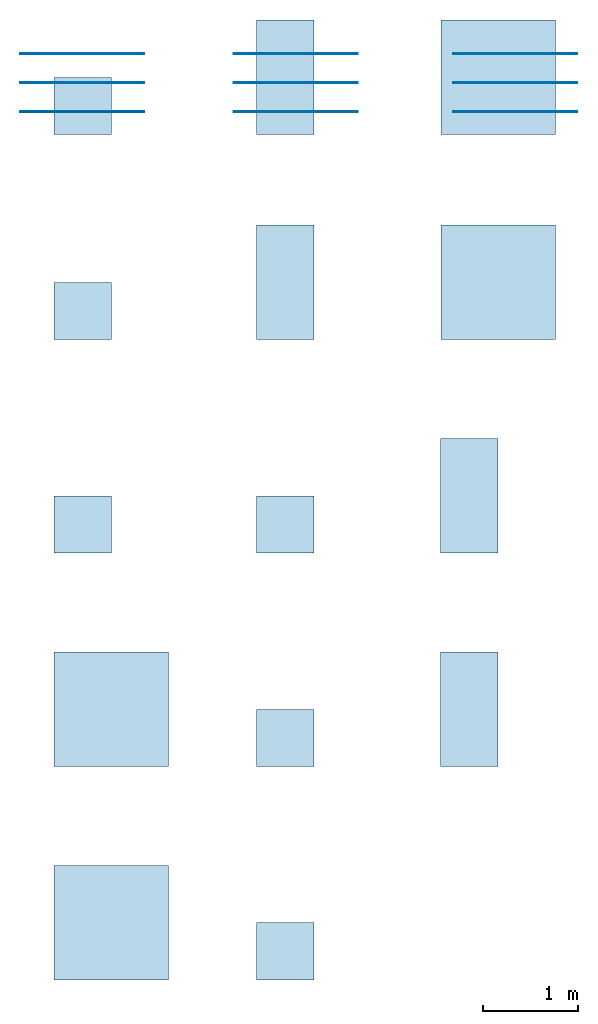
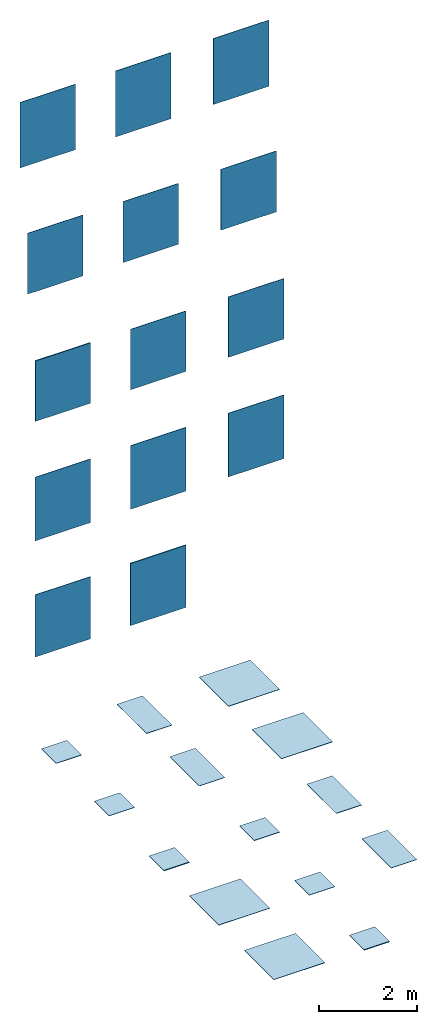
# One storey: 14 slabs, 14 walls.
"""IFC2X3 building model written with IfcOpenShell, lengths in millimetres."""

from ifc_helpers import new_model, entity, si_unit, converted_unit, derived_unit, direction, frame, frame_2d, origin, origin_2d_with_axis, place, context, subcontext, project, spatial, rectangle, extrude, material, layer, layer_set, layer_usage, type_object, element, save


model = new_model("IFC2X3")

# Units and contexts
model_context = context("Model", 3, precision=0.01, world=origin(), true_north=direction((6.123031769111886e-17, 1.0)))
body_context = subcontext(model_context, "Body", "Model", "MODEL_VIEW")
ifc_project = project(units=[si_unit("LENGTHUNIT", "METRE", prefix="MILLI"), si_unit("AREAUNIT", "SQUARE_METRE"), si_unit("VOLUMEUNIT", "CUBIC_METRE"), converted_unit("PLANEANGLEUNIT", "DEGREE", entity("IfcRatioMeasure", 0.017453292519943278), si_unit("PLANEANGLEUNIT", "RADIAN"), dimensions=[0, 0, 0, 0, 0, 0, 0]), si_unit("MASSUNIT", "GRAM", prefix="KILO"), derived_unit("MASSDENSITYUNIT", [(si_unit("MASSUNIT", "GRAM", prefix="KILO"), 1), (si_unit("LENGTHUNIT", "METRE"), -3)]), derived_unit("MOMENTOFINERTIAUNIT", [(si_unit("LENGTHUNIT", "METRE"), 4)]), si_unit("TIMEUNIT", "SECOND"), si_unit("FREQUENCYUNIT", "HERTZ"), si_unit("THERMODYNAMICTEMPERATUREUNIT", "DEGREE_CELSIUS"), derived_unit("THERMALTRANSMITTANCEUNIT", [(si_unit("MASSUNIT", "GRAM", prefix="KILO"), 1), (si_unit("THERMODYNAMICTEMPERATUREUNIT", "KELVIN"), -1), (si_unit("TIMEUNIT", "SECOND"), -3)]), derived_unit("VOLUMETRICFLOWRATEUNIT", [(si_unit("LENGTHUNIT", "METRE"), 3), (si_unit("TIMEUNIT", "SECOND"), -1)]), derived_unit("MASSFLOWRATEUNIT", [(si_unit("MASSUNIT", "GRAM", prefix="KILO"), 1), (si_unit("TIMEUNIT", "SECOND"), -1)]), derived_unit("ROTATIONALFREQUENCYUNIT", [(si_unit("TIMEUNIT", "SECOND"), -1)]), si_unit("ELECTRICCURRENTUNIT", "AMPERE"), si_unit("ELECTRICVOLTAGEUNIT", "VOLT"), si_unit("POWERUNIT", "WATT"), si_unit("FORCEUNIT", "NEWTON", prefix="KILO"), si_unit("ILLUMINANCEUNIT", "LUX"), si_unit("LUMINOUSFLUXUNIT", "LUMEN"), si_unit("LUMINOUSINTENSITYUNIT", "CANDELA"), derived_unit("USERDEFINED", [(si_unit("MASSUNIT", "GRAM", prefix="KILO"), -1), (si_unit("LENGTHUNIT", "METRE"), -2), (si_unit("TIMEUNIT", "SECOND"), 3), (si_unit("LUMINOUSFLUXUNIT", "LUMEN"), 1)]), derived_unit("SOUNDPOWERUNIT", [(si_unit("MASSUNIT", "GRAM", prefix="KILO"), 1), (si_unit("LENGTHUNIT", "METRE"), 2), (si_unit("TIMEUNIT", "SECOND"), -3)]), derived_unit("SOUNDPRESSUREUNIT", [(si_unit("MASSUNIT", "GRAM", prefix="KILO"), 1), (si_unit("LENGTHUNIT", "METRE"), -1), (si_unit("TIMEUNIT", "SECOND"), -2)]), derived_unit("LINEARVELOCITYUNIT", [(si_unit("LENGTHUNIT", "METRE"), 1), (si_unit("TIMEUNIT", "SECOND"), -1)]), si_unit("PRESSUREUNIT", "PASCAL"), derived_unit("USERDEFINED", [(si_unit("LENGTHUNIT", "METRE"), -2), (si_unit("MASSUNIT", "GRAM", prefix="KILO"), 1), (si_unit("TIMEUNIT", "SECOND"), -2)]), derived_unit("LINEARFORCEUNIT", [(si_unit("MASSUNIT", "GRAM", prefix="KILO"), 1), (si_unit("LENGTHUNIT", "METRE"), 1), (si_unit("TIMEUNIT", "SECOND"), -2), (si_unit("LENGTHUNIT", "METRE"), -1)]), derived_unit("PLANARFORCEUNIT", [(si_unit("MASSUNIT", "GRAM", prefix="KILO"), 1), (si_unit("LENGTHUNIT", "METRE"), 1), (si_unit("TIMEUNIT", "SECOND"), -2), (si_unit("LENGTHUNIT", "METRE"), -2)])], contexts=[model_context])

# Site, building, storey
site_placement = place(None, origin())
site = spatial("IfcSite", under=ifc_project, at=site_placement, Name="Default", CompositionType="ELEMENT")
building_placement = place(site_placement, origin())
building = spatial("IfcBuilding", under=site, at=building_placement, CompositionType="ELEMENT")
storey_placement = place(building_placement, origin())
storey = spatial("IfcBuildingStorey", under=building, at=storey_placement, Name="Level 0", CompositionType="ELEMENT", Elevation=0.0)

# Slabs
ifc_material_1 = material(Name="Orobica-Antracite-120x120 OQ53")
ifc_layer_1 = layer(ifc_material_1, 9.0)
ifc_material_2 = material(Name="<Unnamed>")
ifc_layer_2 = layer(ifc_material_2, 1.0)
ifc_layer_set_1 = layer_set([ifc_layer_1, ifc_layer_2], Name="Floor:Floor_Tiles_Refin-Orobica-Antracite-120x120 OQ53")
ifc_layer_usage_1 = layer_usage(ifc_layer_set_1, "AXIS3", "POSITIVE", 0.0)
slab_type_1 = type_object("IfcSlabType", Name="Floor:Floor_Tiles_Refin-Orobica-Antracite-120x120 OQ53", PredefinedType="FLOOR", material=ifc_layer_set_1)
slab_1_placement = place(storey_placement, origin())
element("IfcSlab", 1, at=slab_1_placement, inside=storey, type_object=slab_type_1, material=ifc_layer_usage_1, Name="Floor:Floor_Tiles_Refin-Orobica-Antracite-120x120 OQ53", ObjectType="Floor:Floor_Tiles_Refin-Orobica-Antracite-120x120 OQ53", PredefinedType="FLOOR", context=body_context, shape_type="SweptSolid", body=[
    extrude(rectangle(XDim=1200.0, YDim=1200.0, at=origin_2d_with_axis()), frame((10927.186141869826, 7889.462374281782, 0.0), z_axis=(0.0, 0.0, -1.0), x_axis=(0.0, 1.0, 0.0)), (0.0, 0.0, 1.0), 10.0),
])
ifc_material_3 = material(Name="Orobica-Antracite-60x60 OQ61")
ifc_layer_3 = layer(ifc_material_3, 9.0)
ifc_layer_4 = layer(ifc_material_2, 1.0)
ifc_layer_set_2 = layer_set([ifc_layer_3, ifc_layer_4], Name="Floor:Floor_Tiles_Refin-Orobica-Antracite-60x60 OQ61")
ifc_layer_usage_2 = layer_usage(ifc_layer_set_2, "AXIS3", "POSITIVE", 0.0)
slab_type_2 = type_object("IfcSlabType", Name="Floor:Floor_Tiles_Refin-Orobica-Antracite-60x60 OQ61", PredefinedType="FLOOR", material=ifc_layer_set_2)
slab_2_placement = place(storey_placement, origin())
element("IfcSlab", 2, at=slab_2_placement, inside=storey, type_object=slab_type_2, material=ifc_layer_usage_2, Name="Floor:Floor_Tiles_Refin-Orobica-Antracite-60x60 OQ61", ObjectType="Floor:Floor_Tiles_Refin-Orobica-Antracite-60x60 OQ61", PredefinedType="FLOOR", context=body_context, shape_type="SweptSolid", body=[
    extrude(rectangle(XDim=600.0, YDim=600.0, at=frame_2d((1.0800249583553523e-12, 0.0), x_axis=(1.0, 0.0))), frame((6574.375206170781, 7589.462374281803, 0.0), z_axis=(0.0, 0.0, -1.0), x_axis=(0.0, 1.0, 0.0)), (0.0, 0.0, 1.0), 10.0),
])
ifc_material_4 = material(Name="Orobica-Beige-120x120 OQ54")
ifc_layer_5 = layer(ifc_material_4, 9.0)
ifc_layer_6 = layer(ifc_material_2, 1.0)
ifc_layer_set_3 = layer_set([ifc_layer_5, ifc_layer_6], Name="Floor:Floor_Tiles_Refin-Orobica-Beige-120x120 OQ54")
ifc_layer_usage_3 = layer_usage(ifc_layer_set_3, "AXIS3", "POSITIVE", 0.0)
slab_type_3 = type_object("IfcSlabType", Name="Floor:Floor_Tiles_Refin-Orobica-Beige-120x120 OQ54", PredefinedType="FLOOR", material=ifc_layer_set_3)
slab_3_placement = place(storey_placement, origin())
element("IfcSlab", 3, at=slab_3_placement, inside=storey, type_object=slab_type_3, material=ifc_layer_usage_3, Name="Floor:Floor_Tiles_Refin-Orobica-Beige-120x120 OQ54", ObjectType="Floor:Floor_Tiles_Refin-Orobica-Beige-120x120 OQ54", PredefinedType="FLOOR", context=body_context, shape_type="SweptSolid", body=[
    extrude(rectangle(XDim=1200.0, YDim=1200.0, at=origin_2d_with_axis()), frame((10927.18614186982, 5739.462374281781, 0.0), z_axis=(0.0, 0.0, -1.0), x_axis=(0.0, 1.0, 0.0)), (0.0, 0.0, 1.0), 10.0),
])
ifc_material_5 = material(Name="Orobica-Beige-60x120 OQ58")
ifc_layer_7 = layer(ifc_material_5, 9.0)
ifc_layer_8 = layer(ifc_material_2, 1.0)
ifc_layer_set_4 = layer_set([ifc_layer_7, ifc_layer_8], Name="Floor:Floor_Tiles_Refin-Orobica-Beige-60x120 OQ58")
ifc_layer_usage_4 = layer_usage(ifc_layer_set_4, "AXIS3", "POSITIVE", 0.0)
slab_type_4 = type_object("IfcSlabType", Name="Floor:Floor_Tiles_Refin-Orobica-Beige-60x120 OQ58", PredefinedType="FLOOR", material=ifc_layer_set_4)
slab_4_placement = place(storey_placement, origin())
element("IfcSlab", 4, at=slab_4_placement, inside=storey, type_object=slab_type_4, material=ifc_layer_usage_4, Name="Floor:Floor_Tiles_Refin-Orobica-Beige-60x120 OQ58", ObjectType="Floor:Floor_Tiles_Refin-Orobica-Beige-60x120 OQ58", PredefinedType="FLOOR", context=body_context, shape_type="SweptSolid", body=[
    extrude(rectangle(XDim=1200.0, YDim=600.0, at=frame_2d((0.0, 1.0800249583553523e-12), x_axis=(1.0, 0.0))), frame((8697.39240545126, 5739.462374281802, 0.0), z_axis=(0.0, 0.0, -1.0), x_axis=(0.0, 1.0, 0.0)), (0.0, 0.0, 1.0), 10.0),
])
ifc_material_6 = material(Name="Orobica-Antracite-60x120 OQ57")
ifc_layer_9 = layer(ifc_material_6, 9.0)
ifc_layer_10 = layer(ifc_material_2, 1.0)
ifc_layer_set_5 = layer_set([ifc_layer_9, ifc_layer_10], Name="Floor:Floor_Tiles_Refin-Orobica-Antracite-60x120 OQ57")
ifc_layer_usage_5 = layer_usage(ifc_layer_set_5, "AXIS3", "POSITIVE", 0.0)
slab_type_5 = type_object("IfcSlabType", Name="Floor:Floor_Tiles_Refin-Orobica-Antracite-60x120 OQ57", PredefinedType="FLOOR", material=ifc_layer_set_5)
slab_5_placement = place(storey_placement, origin())
element("IfcSlab", 5, at=slab_5_placement, inside=storey, type_object=slab_type_5, material=ifc_layer_usage_5, Name="Floor:Floor_Tiles_Refin-Orobica-Antracite-60x120 OQ57", ObjectType="Floor:Floor_Tiles_Refin-Orobica-Antracite-60x120 OQ57", PredefinedType="FLOOR", context=body_context, shape_type="SweptSolid", body=[
    extrude(rectangle(XDim=1200.0, YDim=600.0, at=origin_2d_with_axis()), frame((8697.392405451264, 7888.419206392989, 0.0), z_axis=(0.0, 0.0, -1.0), x_axis=(0.0, 1.0, 0.0)), (0.0, 0.0, 1.0), 10.0),
])
ifc_material_7 = material(Name="Orobica-Bianca-60x120 OQ59")
ifc_layer_11 = layer(ifc_material_7, 9.0)
ifc_layer_12 = layer(ifc_material_2, 1.0)
ifc_layer_set_6 = layer_set([ifc_layer_11, ifc_layer_12], Name="Floor:Floor_Tiles_Refin-Orobica-Bianca-60x120 OQ59")
ifc_layer_usage_6 = layer_usage(ifc_layer_set_6, "AXIS3", "POSITIVE", 0.0)
slab_type_6 = type_object("IfcSlabType", Name="Floor:Floor_Tiles_Refin-Orobica-Bianca-60x120 OQ59", PredefinedType="FLOOR", material=ifc_layer_set_6)
slab_6_placement = place(storey_placement, origin())
element("IfcSlab", 6, at=slab_6_placement, inside=storey, type_object=slab_type_6, material=ifc_layer_usage_6, Name="Floor:Floor_Tiles_Refin-Orobica-Bianca-60x120 OQ59", ObjectType="Floor:Floor_Tiles_Refin-Orobica-Bianca-60x120 OQ59", PredefinedType="FLOOR", context=body_context, shape_type="SweptSolid", body=[
    extrude(rectangle(XDim=1200.0, YDim=600.0, at=frame_2d((0.0, 1.0800249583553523e-12), x_axis=(1.0, 0.0))), frame((10625.411868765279, 3503.436723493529, 0.0), z_axis=(0.0, 0.0, -1.0), x_axis=(0.0, 1.0, 0.0)), (0.0, 0.0, 1.0), 10.0),
])
ifc_material_8 = material(Name="Orobica-Beige-60x60 OQ62")
ifc_layer_13 = layer(ifc_material_8, 9.0)
ifc_layer_14 = layer(ifc_material_2, 1.0)
ifc_layer_set_7 = layer_set([ifc_layer_13, ifc_layer_14], Name="Floor:Floor_Tiles_Refin-Orobica-Beige-60x60 OQ62")
ifc_layer_usage_7 = layer_usage(ifc_layer_set_7, "AXIS3", "POSITIVE", 0.0)
slab_type_7 = type_object("IfcSlabType", Name="Floor:Floor_Tiles_Refin-Orobica-Beige-60x60 OQ62", PredefinedType="FLOOR", material=ifc_layer_set_7)
slab_7_placement = place(storey_placement, origin())
element("IfcSlab", 7, at=slab_7_placement, inside=storey, type_object=slab_type_7, material=ifc_layer_usage_7, Name="Floor:Floor_Tiles_Refin-Orobica-Beige-60x60 OQ62", ObjectType="Floor:Floor_Tiles_Refin-Orobica-Beige-60x60 OQ62", PredefinedType="FLOOR", context=body_context, shape_type="SweptSolid", body=[
    extrude(rectangle(XDim=600.0, YDim=600.0, at=origin_2d_with_axis()), frame((6574.375206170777, 5439.462374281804, 0.0), z_axis=(0.0, 0.0, -1.0), x_axis=(0.0, 1.0, 0.0)), (0.0, 0.0, 1.0), 10.0),
])
ifc_material_9 = material(Name="Orobica-Beige-OUT2.0-60x60 OQ65")
ifc_layer_15 = layer(ifc_material_9, 20.0)
ifc_layer_16 = layer(ifc_material_2, 1.0)
ifc_layer_set_8 = layer_set([ifc_layer_15, ifc_layer_16], Name="Floor:Floor_Tiles_Refin-Orobica-Beige-OUT2.0-60x60 OQ65")
ifc_layer_usage_8 = layer_usage(ifc_layer_set_8, "AXIS3", "POSITIVE", 0.0)
slab_type_8 = type_object("IfcSlabType", Name="Floor:Floor_Tiles_Refin-Orobica-Beige-OUT2.0-60x60 OQ65", PredefinedType="FLOOR", material=ifc_layer_set_8)
slab_8_placement = place(storey_placement, origin())
element("IfcSlab", 8, at=slab_8_placement, inside=storey, type_object=slab_type_8, material=ifc_layer_usage_8, Name="Floor:Floor_Tiles_Refin-Orobica-Beige-OUT2.0-60x60 OQ65", ObjectType="Floor:Floor_Tiles_Refin-Orobica-Beige-OUT2.0-60x60 OQ65", PredefinedType="FLOOR", context=body_context, shape_type="SweptSolid", body=[
    extrude(rectangle(XDim=600.0, YDim=600.0, at=origin_2d_with_axis()), frame((6574.375206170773, 3203.4367234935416, 0.0), z_axis=(0.0, 0.0, -1.0), x_axis=(0.0, 1.0, 0.0)), (0.0, 0.0, 1.0), 21.0),
])
ifc_material_10 = material(Name="Orobica-Bianca-60x60 OQ63")
ifc_layer_17 = layer(ifc_material_10, 9.0)
ifc_layer_18 = layer(ifc_material_2, 1.0)
ifc_layer_set_9 = layer_set([ifc_layer_17, ifc_layer_18], Name="Floor:Floor_Tiles_Refin-Orobica-Bianca-60x60 OQ63")
ifc_layer_usage_9 = layer_usage(ifc_layer_set_9, "AXIS3", "POSITIVE", 0.0)
slab_type_9 = type_object("IfcSlabType", Name="Floor:Floor_Tiles_Refin-Orobica-Bianca-60x60 OQ63", PredefinedType="FLOOR", material=ifc_layer_set_9)
slab_9_placement = place(storey_placement, origin())
element("IfcSlab", 9, at=slab_9_placement, inside=storey, type_object=slab_type_9, material=ifc_layer_usage_9, Name="Floor:Floor_Tiles_Refin-Orobica-Bianca-60x60 OQ63", ObjectType="Floor:Floor_Tiles_Refin-Orobica-Bianca-60x60 OQ63", PredefinedType="FLOOR", context=body_context, shape_type="SweptSolid", body=[
    extrude(rectangle(XDim=600.0, YDim=600.0, at=origin_2d_with_axis()), frame((8697.392405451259, 3203.4367234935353, 0.0), z_axis=(0.0, 0.0, -1.0), x_axis=(0.0, 1.0, 0.0)), (0.0, 0.0, 1.0), 10.0),
])
ifc_material_11 = material(Name="Orobica-Grigia-60x120 OQ60")
ifc_layer_19 = layer(ifc_material_11, 9.0)
ifc_layer_20 = layer(ifc_material_2, 1.0)
ifc_layer_set_10 = layer_set([ifc_layer_19, ifc_layer_20], Name="Floor:Floor_Tiles_Refin-Orobica-Grigia-60x120 OQ60")
ifc_layer_usage_10 = layer_usage(ifc_layer_set_10, "AXIS3", "POSITIVE", 0.0)
slab_type_10 = type_object("IfcSlabType", Name="Floor:Floor_Tiles_Refin-Orobica-Grigia-60x120 OQ60", PredefinedType="FLOOR", material=ifc_layer_set_10)
slab_10_placement = place(storey_placement, origin())
element("IfcSlab", 10, at=slab_10_placement, inside=storey, type_object=slab_type_10, material=ifc_layer_usage_10, Name="Floor:Floor_Tiles_Refin-Orobica-Grigia-60x120 OQ60", ObjectType="Floor:Floor_Tiles_Refin-Orobica-Grigia-60x120 OQ60", PredefinedType="FLOOR", context=body_context, shape_type="SweptSolid", body=[
    extrude(rectangle(XDim=1200.0, YDim=600.0, at=frame_2d((0.0, -1.0800249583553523e-12), x_axis=(1.0, 0.0))), frame((10625.411868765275, 1267.4110727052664, 0.0), z_axis=(0.0, 0.0, -1.0), x_axis=(0.0, 1.0, 0.0)), (0.0, 0.0, 1.0), 10.0),
])
ifc_material_12 = material(Name="Orobica-Bianca-120x120 OQ55")
ifc_layer_21 = layer(ifc_material_12, 9.0)
ifc_layer_22 = layer(ifc_material_2, 1.0)
ifc_layer_set_11 = layer_set([ifc_layer_21, ifc_layer_22], Name="Floor:Floor_Tiles_Refin-Orobica-Bianca-120x120 OQ55")
ifc_layer_usage_11 = layer_usage(ifc_layer_set_11, "AXIS3", "POSITIVE", 0.0)
slab_type_11 = type_object("IfcSlabType", Name="Floor:Floor_Tiles_Refin-Orobica-Bianca-120x120 OQ55", PredefinedType="FLOOR", material=ifc_layer_set_11)
slab_11_placement = place(storey_placement, origin())
element("IfcSlab", 11, at=slab_11_placement, inside=storey, type_object=slab_type_11, material=ifc_layer_usage_11, Name="Floor:Floor_Tiles_Refin-Orobica-Bianca-120x120 OQ55", ObjectType="Floor:Floor_Tiles_Refin-Orobica-Bianca-120x120 OQ55", PredefinedType="FLOOR", context=body_context, shape_type="SweptSolid", body=[
    extrude(rectangle(XDim=1200.0, YDim=1200.0, at=origin_2d_with_axis()), frame((6874.375206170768, 1267.4110727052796, 0.0), z_axis=(0.0, 0.0, -1.0), x_axis=(0.0, 1.0, 0.0)), (0.0, 0.0, 1.0), 10.0),
])
ifc_material_13 = material(Name="Orobica-Grigia-60x60 OQ64")
ifc_layer_23 = layer(ifc_material_13, 9.0)
ifc_layer_24 = layer(ifc_material_2, 1.0)
ifc_layer_set_12 = layer_set([ifc_layer_23, ifc_layer_24], Name="Floor:Floor_Tiles_Refin-Orobica-Grigia-60x60 OQ64")
ifc_layer_usage_12 = layer_usage(ifc_layer_set_12, "AXIS3", "POSITIVE", 0.0)
slab_type_12 = type_object("IfcSlabType", Name="Floor:Floor_Tiles_Refin-Orobica-Grigia-60x60 OQ64", PredefinedType="FLOOR", material=ifc_layer_set_12)
slab_12_placement = place(storey_placement, origin())
element("IfcSlab", 12, at=slab_12_placement, inside=storey, type_object=slab_type_12, material=ifc_layer_usage_12, Name="Floor:Floor_Tiles_Refin-Orobica-Grigia-60x60 OQ64", ObjectType="Floor:Floor_Tiles_Refin-Orobica-Grigia-60x60 OQ64", PredefinedType="FLOOR", context=body_context, shape_type="SweptSolid", body=[
    extrude(rectangle(XDim=600.0, YDim=600.0, at=frame_2d((0.0, -1.0800249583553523e-12), x_axis=(1.0, 0.0))), frame((8697.392405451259, 967.411072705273, 0.0), z_axis=(0.0, 0.0, -1.0), x_axis=(0.0, 1.0, 0.0)), (0.0, 0.0, 1.0), 10.0),
])
ifc_material_14 = material(Name="Orobica-Grigia-120x120 OQ56")
ifc_layer_25 = layer(ifc_material_14, 9.0)
ifc_layer_26 = layer(ifc_material_2, 1.0)
ifc_layer_set_13 = layer_set([ifc_layer_25, ifc_layer_26], Name="Floor:Floor_Tiles_Refin-Orobica-Grigia-120x120 OQ56")
ifc_layer_usage_13 = layer_usage(ifc_layer_set_13, "AXIS3", "POSITIVE", 0.0)
slab_type_13 = type_object("IfcSlabType", Name="Floor:Floor_Tiles_Refin-Orobica-Grigia-120x120 OQ56", PredefinedType="FLOOR", material=ifc_layer_set_13)
slab_13_placement = place(storey_placement, origin())
element("IfcSlab", 13, at=slab_13_placement, inside=storey, type_object=slab_type_13, material=ifc_layer_usage_13, Name="Floor:Floor_Tiles_Refin-Orobica-Grigia-120x120 OQ56", ObjectType="Floor:Floor_Tiles_Refin-Orobica-Grigia-120x120 OQ56", PredefinedType="FLOOR", context=body_context, shape_type="SweptSolid", body=[
    extrude(rectangle(XDim=1200.0, YDim=1200.0, at=origin_2d_with_axis()), frame((6874.375206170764, -968.6145780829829, 0.0), z_axis=(0.0, 0.0, -1.0), x_axis=(0.0, 1.0, 0.0)), (0.0, 0.0, 1.0), 10.0),
])
ifc_material_15 = material(Name="Orobica-Grigia-OUT2.0-60x60 OQ66")
ifc_layer_27 = layer(ifc_material_15, 20.0)
ifc_layer_28 = layer(ifc_material_2, 1.0)
ifc_layer_set_14 = layer_set([ifc_layer_27, ifc_layer_28], Name="Floor:Floor_Tiles_Refin-Orobica-Grigia-OUT2.0-60x60 OQ66")
ifc_layer_usage_14 = layer_usage(ifc_layer_set_14, "AXIS3", "POSITIVE", 0.0)
slab_type_14 = type_object("IfcSlabType", Name="Floor:Floor_Tiles_Refin-Orobica-Grigia-OUT2.0-60x60 OQ66", PredefinedType="FLOOR", material=ifc_layer_set_14)
slab_14_placement = place(storey_placement, origin())
element("IfcSlab", 14, at=slab_14_placement, inside=storey, type_object=slab_type_14, material=ifc_layer_usage_14, Name="Floor:Floor_Tiles_Refin-Orobica-Grigia-OUT2.0-60x60 OQ66", ObjectType="Floor:Floor_Tiles_Refin-Orobica-Grigia-OUT2.0-60x60 OQ66", PredefinedType="FLOOR", context=body_context, shape_type="SweptSolid", body=[
    extrude(rectangle(XDim=600.0, YDim=600.0, at=frame_2d((0.0, 1.0800249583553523e-12), x_axis=(1.0, 0.0))), frame((8697.392405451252, -1268.6145780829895, 0.0), z_axis=(0.0, 0.0, -1.0), x_axis=(0.0, 1.0, 0.0)), (0.0, 0.0, 1.0), 21.0),
])

# Walls
ifc_layer_29 = layer(ifc_material_2, 1.0)
ifc_layer_30 = layer(ifc_material_6, 9.0)
ifc_layer_set_15 = layer_set([ifc_layer_29, ifc_layer_30], Name="Basic Wall:Wall_Tiles_Refin-Orobica-Antracite-60x120 OQ57")
ifc_layer_usage_15 = layer_usage(ifc_layer_set_15, "AXIS2", "NEGATIVE", 5.000000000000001)
wall_type_1 = type_object("IfcWallType", Name="Basic Wall:Wall_Tiles_Refin-Orobica-Antracite-60x120 OQ57", PredefinedType="STANDARD", material=ifc_layer_set_15)
wall_1_placement = place(storey_placement, frame((8157.37520617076, 8137.383863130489, 14387.677044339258)))
element("IfcWallStandardCase", 15, at=wall_1_placement, inside=storey, type_object=wall_type_1, material=ifc_layer_usage_15, Name="Basic Wall:Wall_Tiles_Refin-Orobica-Antracite-60x120 OQ57", ObjectType="Basic Wall:Wall_Tiles_Refin-Orobica-Antracite-60x120 OQ57", context=body_context, shape_type="SweptSolid", body=[
    extrude(rectangle(XDim=1300.0, YDim=9.999999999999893, at=frame_2d((650.0, 7.638334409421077e-14), x_axis=(-1.0, 0.0))), origin(), (0.0, 0.0, 1.0), 1641.7417352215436),
])
ifc_layer_31 = layer(ifc_material_2, 1.0)
ifc_layer_32 = layer(ifc_material_1, 9.0)
ifc_layer_set_16 = layer_set([ifc_layer_31, ifc_layer_32], Name="Basic Wall:Wall_Tiles_Refin-Orobica-Antracite-120x120 OQ53")
ifc_layer_usage_16 = layer_usage(ifc_layer_set_16, "AXIS2", "NEGATIVE", 5.000000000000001)
wall_type_2 = type_object("IfcWallType", Name="Basic Wall:Wall_Tiles_Refin-Orobica-Antracite-120x120 OQ53", PredefinedType="STANDARD", material=ifc_layer_set_16)
wall_2_placement = place(storey_placement, frame((10457.375206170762, 8137.383863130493, 14387.677044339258)))
element("IfcWallStandardCase", 16, at=wall_2_placement, inside=storey, type_object=wall_type_2, material=ifc_layer_usage_16, Name="Basic Wall:Wall_Tiles_Refin-Orobica-Antracite-120x120 OQ53", ObjectType="Basic Wall:Wall_Tiles_Refin-Orobica-Antracite-120x120 OQ53", context=body_context, shape_type="SweptSolid", body=[
    extrude(rectangle(XDim=1299.999999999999, YDim=9.999999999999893, at=frame_2d((649.9999999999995, 7.638334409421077e-14), x_axis=(-1.0, 0.0))), origin(), (0.0, 0.0, 1.0), 1641.7417352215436),
])
ifc_layer_33 = layer(ifc_material_2, 1.0)
ifc_layer_34 = layer(ifc_material_3, 9.0)
ifc_layer_set_17 = layer_set([ifc_layer_33, ifc_layer_34], Name="Basic Wall:Wall_Tiles_Refin-Orobica-Antracite-60x60 OQ61")
ifc_layer_usage_17 = layer_usage(ifc_layer_set_17, "AXIS2", "NEGATIVE", 5.000000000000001)
wall_type_3 = type_object("IfcWallType", Name="Basic Wall:Wall_Tiles_Refin-Orobica-Antracite-60x60 OQ61", PredefinedType="STANDARD", material=ifc_layer_set_17)
wall_3_placement = place(storey_placement, frame((5917.375206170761, 8137.383863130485, 14403.726734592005)))
element("IfcWallStandardCase", 17, at=wall_3_placement, inside=storey, type_object=wall_type_3, material=ifc_layer_usage_17, Name="Basic Wall:Wall_Tiles_Refin-Orobica-Antracite-60x60 OQ61", ObjectType="Basic Wall:Wall_Tiles_Refin-Orobica-Antracite-60x60 OQ61", context=body_context, shape_type="SweptSolid", body=[
    extrude(rectangle(XDim=1300.0, YDim=9.999999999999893, at=frame_2d((650.0, 7.638334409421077e-14), x_axis=(-1.0, 0.0))), origin(), (0.0, 0.0, 1.0), 1625.692044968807),
])
ifc_layer_35 = layer(ifc_material_2, 1.0)
ifc_layer_36 = layer(ifc_material_8, 9.0)
ifc_layer_set_18 = layer_set([ifc_layer_35, ifc_layer_36], Name="Basic Wall:Wall_Tiles_Refin-Orobica-Beige-60x60 OQ62")
ifc_layer_usage_18 = layer_usage(ifc_layer_set_18, "AXIS2", "NEGATIVE", 5.000000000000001)
wall_type_4 = type_object("IfcWallType", Name="Basic Wall:Wall_Tiles_Refin-Orobica-Beige-60x60 OQ62", PredefinedType="STANDARD", material=ifc_layer_set_18)
wall_4_placement = place(storey_placement, frame((5917.375206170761, 7832.3838631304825, 11452.543626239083)))
element("IfcWallStandardCase", 18, at=wall_4_placement, inside=storey, type_object=wall_type_4, material=ifc_layer_usage_18, Name="Basic Wall:Wall_Tiles_Refin-Orobica-Beige-60x60 OQ62", ObjectType="Basic Wall:Wall_Tiles_Refin-Orobica-Beige-60x60 OQ62", context=body_context, shape_type="SweptSolid", body=[
    extrude(rectangle(XDim=1300.0, YDim=9.999999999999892, at=frame_2d((650.0, 0.0), x_axis=(-1.0, 0.0))), origin(), (0.0, 0.0, 1.0), 1513.1985565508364),
])
ifc_layer_37 = layer(ifc_material_2, 1.0)
ifc_layer_38 = layer(ifc_material_5, 9.0)
ifc_layer_set_19 = layer_set([ifc_layer_37, ifc_layer_38], Name="Basic Wall:Wall_Tiles_Refin-Orobica-Beige-60x120 OQ58")
ifc_layer_usage_19 = layer_usage(ifc_layer_set_19, "AXIS2", "NEGATIVE", 5.000000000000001)
wall_type_5 = type_object("IfcWallType", Name="Basic Wall:Wall_Tiles_Refin-Orobica-Beige-60x120 OQ58", PredefinedType="STANDARD", material=ifc_layer_set_19)
wall_5_placement = place(storey_placement, frame((8157.375206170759, 7832.383863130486, 11452.543626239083)))
element("IfcWallStandardCase", 19, at=wall_5_placement, inside=storey, type_object=wall_type_5, material=ifc_layer_usage_19, Name="Basic Wall:Wall_Tiles_Refin-Orobica-Beige-60x120 OQ58", ObjectType="Basic Wall:Wall_Tiles_Refin-Orobica-Beige-60x120 OQ58", context=body_context, shape_type="SweptSolid", body=[
    extrude(rectangle(XDim=1300.0, YDim=9.999999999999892, at=frame_2d((650.0, 0.0), x_axis=(-1.0, 0.0))), origin(), (0.0, 0.0, 1.0), 1513.1985565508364),
])
ifc_layer_39 = layer(ifc_material_2, 1.0)
ifc_layer_40 = layer(ifc_material_4, 9.0)
ifc_layer_set_20 = layer_set([ifc_layer_39, ifc_layer_40], Name="Basic Wall:Wall_Tiles_Refin-Orobica-Beige-120x120 OQ54")
ifc_layer_usage_20 = layer_usage(ifc_layer_set_20, "AXIS2", "NEGATIVE", 5.000000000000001)
wall_type_6 = type_object("IfcWallType", Name="Basic Wall:Wall_Tiles_Refin-Orobica-Beige-120x120 OQ54", PredefinedType="STANDARD", material=ifc_layer_set_20)
wall_6_placement = place(storey_placement, frame((10457.37520617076, 7832.383863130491, 11452.543626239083)))
element("IfcWallStandardCase", 20, at=wall_6_placement, inside=storey, type_object=wall_type_6, material=ifc_layer_usage_20, Name="Basic Wall:Wall_Tiles_Refin-Orobica-Beige-120x120 OQ54", ObjectType="Basic Wall:Wall_Tiles_Refin-Orobica-Beige-120x120 OQ54", context=body_context, shape_type="SweptSolid", body=[
    extrude(rectangle(XDim=1300.0000000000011, YDim=9.999999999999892, at=frame_2d((650.0000000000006, 0.0), x_axis=(-1.0, 0.0))), origin(), (0.0, 0.0, 1.0), 1513.1985565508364),
])
ifc_layer_41 = layer(ifc_material_2, 1.0)
ifc_layer_42 = layer(ifc_material_9, 20.0)
ifc_layer_set_21 = layer_set([ifc_layer_41, ifc_layer_42], Name="Basic Wall:Wall_Tiles_Refin-Orobica-Beige-OUT2.0-60x60 OQ65")
ifc_layer_usage_21 = layer_usage(ifc_layer_set_21, "AXIS2", "NEGATIVE", 10.5)
wall_type_7 = type_object("IfcWallType", Name="Basic Wall:Wall_Tiles_Refin-Orobica-Beige-OUT2.0-60x60 OQ65", PredefinedType="STANDARD", material=ifc_layer_set_21)
wall_7_placement = place(storey_placement, frame((5917.375206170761, 7527.3838631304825, 8479.102721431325)))
element("IfcWallStandardCase", 21, at=wall_7_placement, inside=storey, type_object=wall_type_7, material=ifc_layer_usage_21, Name="Basic Wall:Wall_Tiles_Refin-Orobica-Beige-OUT2.0-60x60 OQ65", ObjectType="Basic Wall:Wall_Tiles_Refin-Orobica-Beige-OUT2.0-60x60 OQ65", context=body_context, shape_type="SweptSolid", body=[
    extrude(rectangle(XDim=1300.0, YDim=20.999999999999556, at=frame_2d((650.0, 0.0), x_axis=(-1.0, 0.0))), origin(), (0.0, 0.0, 1.0), 1502.5740159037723),
])
ifc_layer_43 = layer(ifc_material_2, 1.0)
ifc_layer_44 = layer(ifc_material_10, 9.0)
ifc_layer_set_22 = layer_set([ifc_layer_43, ifc_layer_44], Name="Basic Wall:Wall_Tiles_Refin-Orobica-Bianca-60x60 OQ63")
ifc_layer_usage_22 = layer_usage(ifc_layer_set_22, "AXIS2", "NEGATIVE", 5.000000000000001)
wall_type_8 = type_object("IfcWallType", Name="Basic Wall:Wall_Tiles_Refin-Orobica-Bianca-60x60 OQ63", PredefinedType="STANDARD", material=ifc_layer_set_22)
wall_8_placement = place(storey_placement, frame((8157.375206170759, 7527.383863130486, 8479.102721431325)))
element("IfcWallStandardCase", 22, at=wall_8_placement, inside=storey, type_object=wall_type_8, material=ifc_layer_usage_22, Name="Basic Wall:Wall_Tiles_Refin-Orobica-Bianca-60x60 OQ63", ObjectType="Basic Wall:Wall_Tiles_Refin-Orobica-Bianca-60x60 OQ63", context=body_context, shape_type="SweptSolid", body=[
    extrude(rectangle(XDim=1300.0, YDim=9.999999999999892, at=frame_2d((650.0, 0.0), x_axis=(-1.0, 0.0))), origin(), (0.0, 0.0, 1.0), 1502.5740159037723),
])
ifc_layer_45 = layer(ifc_material_2, 1.0)
ifc_layer_46 = layer(ifc_material_7, 9.0)
ifc_layer_set_23 = layer_set([ifc_layer_45, ifc_layer_46], Name="Basic Wall:Wall_Tiles_Refin-Orobica-Bianca-60x120 OQ59")
ifc_layer_usage_23 = layer_usage(ifc_layer_set_23, "AXIS2", "NEGATIVE", 5.000000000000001)
wall_type_9 = type_object("IfcWallType", Name="Basic Wall:Wall_Tiles_Refin-Orobica-Bianca-60x120 OQ59", PredefinedType="STANDARD", material=ifc_layer_set_23)
wall_9_placement = place(storey_placement, frame((10457.37520617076, 7527.383863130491, 8479.102721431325)))
element("IfcWallStandardCase", 23, at=wall_9_placement, inside=storey, type_object=wall_type_9, material=ifc_layer_usage_23, Name="Basic Wall:Wall_Tiles_Refin-Orobica-Bianca-60x120 OQ59", ObjectType="Basic Wall:Wall_Tiles_Refin-Orobica-Bianca-60x120 OQ59", context=body_context, shape_type="SweptSolid", body=[
    extrude(rectangle(XDim=1300.0000000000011, YDim=9.999999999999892, at=frame_2d((650.0000000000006, 0.0), x_axis=(-1.0, 0.0))), origin(), (0.0, 0.0, 1.0), 1502.5740159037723),
])
ifc_layer_47 = layer(ifc_material_2, 1.0)
ifc_layer_48 = layer(ifc_material_12, 9.0)
ifc_layer_set_24 = layer_set([ifc_layer_47, ifc_layer_48], Name="Basic Wall:Wall_Tiles_Refin-Orobica-Bianca-120x120 OQ55")
ifc_layer_usage_24 = layer_usage(ifc_layer_set_24, "AXIS2", "NEGATIVE", 5.000000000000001)
wall_type_10 = type_object("IfcWallType", Name="Basic Wall:Wall_Tiles_Refin-Orobica-Bianca-120x120 OQ55", PredefinedType="STANDARD", material=ifc_layer_set_24)
wall_10_placement = place(storey_placement, frame((5917.375206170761, 7527.3838631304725, 5508.2613358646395)))
element("IfcWallStandardCase", 24, at=wall_10_placement, inside=storey, type_object=wall_type_10, material=ifc_layer_usage_24, Name="Basic Wall:Wall_Tiles_Refin-Orobica-Bianca-120x120 OQ55", ObjectType="Basic Wall:Wall_Tiles_Refin-Orobica-Bianca-120x120 OQ55", context=body_context, shape_type="SweptSolid", body=[
    extrude(rectangle(XDim=1300.0, YDim=9.999999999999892, at=frame_2d((650.0, 0.0), x_axis=(-1.0, 0.0))), origin(), (0.0, 0.0, 1.0), 1583.0740859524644),
])
ifc_layer_49 = layer(ifc_material_2, 1.0)
ifc_layer_50 = layer(ifc_material_13, 9.0)
ifc_layer_set_25 = layer_set([ifc_layer_49, ifc_layer_50], Name="Basic Wall:Wall_Tiles_Refin-Orobica-Grigia-60x60 OQ64")
ifc_layer_usage_25 = layer_usage(ifc_layer_set_25, "AXIS2", "NEGATIVE", 5.000000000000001)
wall_type_11 = type_object("IfcWallType", Name="Basic Wall:Wall_Tiles_Refin-Orobica-Grigia-60x60 OQ64", PredefinedType="STANDARD", material=ifc_layer_set_25)
wall_11_placement = place(storey_placement, frame((8157.375206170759, 7527.383863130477, 5508.2613358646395)))
element("IfcWallStandardCase", 25, at=wall_11_placement, inside=storey, type_object=wall_type_11, material=ifc_layer_usage_25, Name="Basic Wall:Wall_Tiles_Refin-Orobica-Grigia-60x60 OQ64", ObjectType="Basic Wall:Wall_Tiles_Refin-Orobica-Grigia-60x60 OQ64", context=body_context, shape_type="SweptSolid", body=[
    extrude(rectangle(XDim=1300.0, YDim=9.999999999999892, at=frame_2d((650.0, 0.0), x_axis=(-1.0, 0.0))), origin(), (0.0, 0.0, 1.0), 1583.0740859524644),
])
ifc_layer_51 = layer(ifc_material_2, 1.0)
ifc_layer_52 = layer(ifc_material_11, 9.0)
ifc_layer_set_26 = layer_set([ifc_layer_51, ifc_layer_52], Name="Basic Wall:Wall_Tiles_Refin-Orobica-Grigia-60x120 OQ60")
ifc_layer_usage_26 = layer_usage(ifc_layer_set_26, "AXIS2", "NEGATIVE", 5.000000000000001)
wall_type_12 = type_object("IfcWallType", Name="Basic Wall:Wall_Tiles_Refin-Orobica-Grigia-60x120 OQ60", PredefinedType="STANDARD", material=ifc_layer_set_26)
wall_12_placement = place(storey_placement, frame((10457.37520617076, 7527.383863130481, 5508.2613358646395)))
element("IfcWallStandardCase", 26, at=wall_12_placement, inside=storey, type_object=wall_type_12, material=ifc_layer_usage_26, Name="Basic Wall:Wall_Tiles_Refin-Orobica-Grigia-60x120 OQ60", ObjectType="Basic Wall:Wall_Tiles_Refin-Orobica-Grigia-60x120 OQ60", context=body_context, shape_type="SweptSolid", body=[
    extrude(rectangle(XDim=1300.0000000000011, YDim=9.999999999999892, at=frame_2d((650.0000000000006, 0.0), x_axis=(-1.0, 0.0))), origin(), (0.0, 0.0, 1.0), 1583.0740859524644),
])
ifc_layer_53 = layer(ifc_material_2, 1.0)
ifc_layer_54 = layer(ifc_material_14, 9.0)
ifc_layer_set_27 = layer_set([ifc_layer_53, ifc_layer_54], Name="Basic Wall:Wall_Tiles_Refin-Orobica-Grigia-120x120 OQ56")
ifc_layer_usage_27 = layer_usage(ifc_layer_set_27, "AXIS2", "NEGATIVE", 5.000000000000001)
wall_type_13 = type_object("IfcWallType", Name="Basic Wall:Wall_Tiles_Refin-Orobica-Grigia-120x120 OQ56", PredefinedType="STANDARD", material=ifc_layer_set_27)
wall_13_placement = place(storey_placement, frame((5917.375206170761, 7527.383863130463, 2622.064980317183)))
element("IfcWallStandardCase", 27, at=wall_13_placement, inside=storey, type_object=wall_type_13, material=ifc_layer_usage_27, Name="Basic Wall:Wall_Tiles_Refin-Orobica-Grigia-120x120 OQ56", ObjectType="Basic Wall:Wall_Tiles_Refin-Orobica-Grigia-120x120 OQ56", context=body_context, shape_type="SweptSolid", body=[
    extrude(rectangle(XDim=1300.0, YDim=9.999999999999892, at=frame_2d((650.0, 0.0), x_axis=(-1.0, 0.0))), origin(), (0.0, 0.0, 1.0), 1547.115068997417),
])
ifc_layer_55 = layer(ifc_material_2, 1.0)
ifc_layer_56 = layer(ifc_material_15, 20.0)
ifc_layer_set_28 = layer_set([ifc_layer_55, ifc_layer_56], Name="Basic Wall:Wall_Tiles_Refin-Orobica-Grigia-OUT2.0-60x60 OQ66")
ifc_layer_usage_28 = layer_usage(ifc_layer_set_28, "AXIS2", "NEGATIVE", 10.5)
wall_type_14 = type_object("IfcWallType", Name="Basic Wall:Wall_Tiles_Refin-Orobica-Grigia-OUT2.0-60x60 OQ66", PredefinedType="STANDARD", material=ifc_layer_set_28)
wall_14_placement = place(storey_placement, frame((8157.375206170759, 7527.383863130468, 2622.064980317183)))
element("IfcWallStandardCase", 28, at=wall_14_placement, inside=storey, type_object=wall_type_14, material=ifc_layer_usage_28, Name="Basic Wall:Wall_Tiles_Refin-Orobica-Grigia-OUT2.0-60x60 OQ66", ObjectType="Basic Wall:Wall_Tiles_Refin-Orobica-Grigia-OUT2.0-60x60 OQ66", context=body_context, shape_type="SweptSolid", body=[
    extrude(rectangle(XDim=1300.0, YDim=20.999999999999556, at=frame_2d((650.0, 0.0), x_axis=(-1.0, 0.0))), origin(), (0.0, 0.0, 1.0), 1547.115068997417),
])

save(model, "model.ifc")
